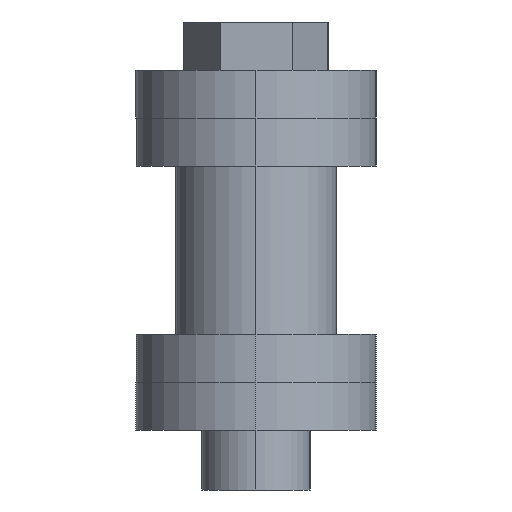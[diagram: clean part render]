
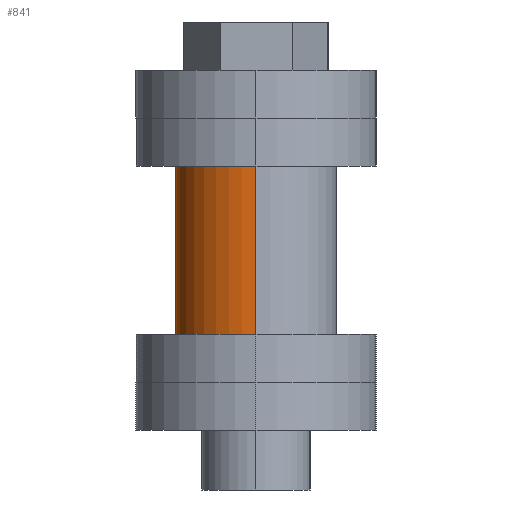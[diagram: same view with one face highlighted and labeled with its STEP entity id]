
A CAD part, left-side view. The second image highlights one B-rep face of the part: STEP entity #841.
In plain terms, the highlighted cylindrical face has radius 13.4 mm (diameter 26.8 mm), a partial arc.
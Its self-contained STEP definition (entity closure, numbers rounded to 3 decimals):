
#32 = CYLINDRICAL_SURFACE ( 'NONE', #261, 13.4 ) ;
#35 = DIRECTION ( 'NONE',  ( -1., 0., 0. ) ) ;
#67 = ORIENTED_EDGE ( 'NONE', *, *, #1496, .F. ) ;
#82 = DIRECTION ( 'NONE',  ( 0., 0., -1. ) ) ;
#86 = EDGE_CURVE ( 'NONE', #892, #631, #554, .T. ) ;
#124 = ORIENTED_EDGE ( 'NONE', *, *, #1157, .T. ) ;
#146 = VECTOR ( 'NONE', #82, 1000. ) ;
#256 = LINE ( 'NONE', #790, #146 ) ;
#261 = AXIS2_PLACEMENT_3D ( 'NONE', #1334, #628, #35 ) ;
#398 = AXIS2_PLACEMENT_3D ( 'NONE', #833, #708, #453 ) ;
#453 = DIRECTION ( 'NONE',  ( 1., 0., 0. ) ) ;
#554 = CIRCLE ( 'NONE', #398, 13.4 ) ;
#598 = VERTEX_POINT ( 'NONE', #666 ) ;
#628 = DIRECTION ( 'NONE',  ( 0., 0., -1. ) ) ;
#631 = VERTEX_POINT ( 'NONE', #1010 ) ;
#648 = CARTESIAN_POINT ( 'NONE',  ( -13.4, 0., 44. ) ) ;
#663 = DIRECTION ( 'NONE',  ( 0., 0., 1. ) ) ;
#666 = CARTESIAN_POINT ( 'NONE',  ( 13.4, 0., 44. ) ) ;
#708 = DIRECTION ( 'NONE',  ( 0., 0., 1. ) ) ;
#725 = CIRCLE ( 'NONE', #989, 13.4 ) ;
#736 = VERTEX_POINT ( 'NONE', #738 ) ;
#738 = CARTESIAN_POINT ( 'NONE',  ( -13.4, 0., 44. ) ) ;
#759 = VECTOR ( 'NONE', #1352, 1000. ) ;
#790 = CARTESIAN_POINT ( 'NONE',  ( 13.4, 0., 44. ) ) ;
#826 = CARTESIAN_POINT ( 'NONE',  ( 13.4, 0., 0. ) ) ;
#833 = CARTESIAN_POINT ( 'NONE',  ( 0., 0., 0. ) ) ;
#841 = ADVANCED_FACE ( 'NONE', ( #1330 ), #32, .T. ) ;
#892 = VERTEX_POINT ( 'NONE', #826 ) ;
#929 = ORIENTED_EDGE ( 'NONE', *, *, #1052, .F. ) ;
#989 = AXIS2_PLACEMENT_3D ( 'NONE', #1368, #663, #1227 ) ;
#1010 = CARTESIAN_POINT ( 'NONE',  ( -13.4, 0., 0. ) ) ;
#1052 = EDGE_CURVE ( 'NONE', #598, #736, #725, .T. ) ;
#1141 = ORIENTED_EDGE ( 'NONE', *, *, #86, .T. ) ;
#1157 = EDGE_CURVE ( 'NONE', #598, #892, #256, .T. ) ;
#1227 = DIRECTION ( 'NONE',  ( 1., 0., 0. ) ) ;
#1330 = FACE_OUTER_BOUND ( 'NONE', #1365, .T. ) ;
#1334 = CARTESIAN_POINT ( 'NONE',  ( 0., 0., 44. ) ) ;
#1352 = DIRECTION ( 'NONE',  ( 0., 0., -1. ) ) ;
#1365 = EDGE_LOOP ( 'NONE', ( #929, #124, #1141, #67 ) ) ;
#1368 = CARTESIAN_POINT ( 'NONE',  ( 0., 0., 44. ) ) ;
#1434 = LINE ( 'NONE', #648, #759 ) ;
#1496 = EDGE_CURVE ( 'NONE', #736, #631, #1434, .T. ) ;
